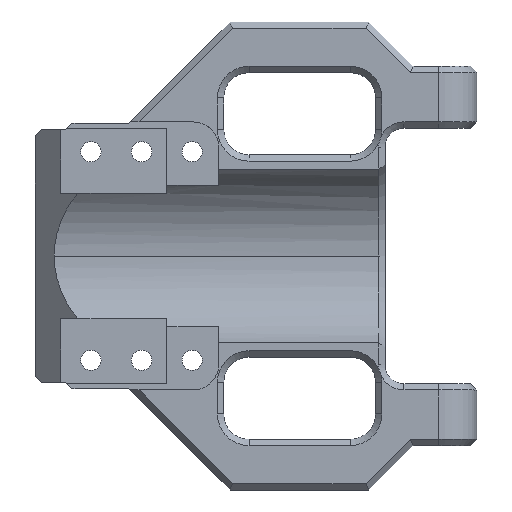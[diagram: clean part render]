
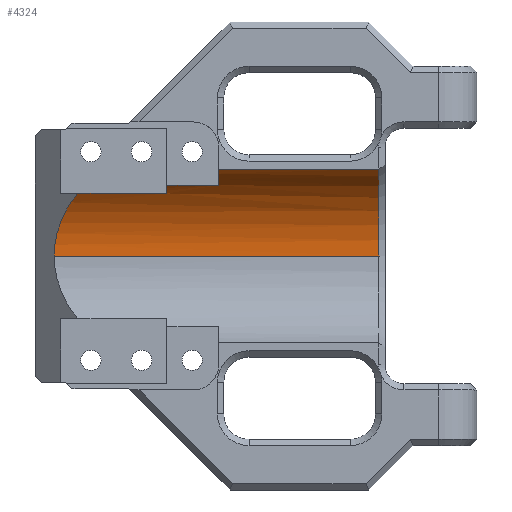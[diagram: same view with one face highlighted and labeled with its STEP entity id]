
A CAD part, top view. The second image highlights one B-rep face of the part: STEP entity #4324.
In plain terms, the highlighted cylindrical face has radius 15 mm (diameter 30 mm), a partial arc.
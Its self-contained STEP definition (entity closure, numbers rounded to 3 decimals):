
#15=ELLIPSE('',#4644,21.213,15.);
#68=CYLINDRICAL_SURFACE('',#4643,15.);
#422=FACE_OUTER_BOUND('',#674,.T.);
#674=EDGE_LOOP('',(#3492,#3493,#3494,#3495,#3496,#3497,#3498,#3499));
#824=CIRCLE('',#4476,15.);
#841=CIRCLE('',#4511,15.);
#853=CIRCLE('',#4550,15.);
#978=LINE('',#6147,#1441);
#1062=LINE('',#6365,#1525);
#1064=LINE('',#6372,#1527);
#1177=LINE('',#6723,#1640);
#1441=VECTOR('',#4914,10.);
#1525=VECTOR('',#5132,10.);
#1527=VECTOR('',#5138,10.);
#1640=VECTOR('',#5431,10.);
#1887=VERTEX_POINT('',#6086);
#1895=VERTEX_POINT('',#6108);
#1912=VERTEX_POINT('',#6145);
#1938=VERTEX_POINT('',#6231);
#1977=VERTEX_POINT('',#6354);
#1978=VERTEX_POINT('',#6356);
#1981=VERTEX_POINT('',#6369);
#2076=VERTEX_POINT('',#6722);
#2306=EDGE_CURVE('',#1895,#1887,#824,.T.);
#2326=EDGE_CURVE('',#1912,#1887,#978,.F.);
#2369=EDGE_CURVE('',#1912,#1938,#841,.F.);
#2426=EDGE_CURVE('',#1978,#1977,#853,.T.);
#2432=EDGE_CURVE('',#1938,#1978,#1062,.T.);
#2435=EDGE_CURVE('',#1977,#1981,#1064,.T.);
#2593=EDGE_CURVE('',#2076,#1895,#1177,.T.);
#2594=EDGE_CURVE('',#2076,#1981,#15,.T.);
#3492=ORIENTED_EDGE('',*,*,#2593,.T.);
#3493=ORIENTED_EDGE('',*,*,#2306,.T.);
#3494=ORIENTED_EDGE('',*,*,#2326,.F.);
#3495=ORIENTED_EDGE('',*,*,#2369,.T.);
#3496=ORIENTED_EDGE('',*,*,#2432,.T.);
#3497=ORIENTED_EDGE('',*,*,#2426,.T.);
#3498=ORIENTED_EDGE('',*,*,#2435,.T.);
#3499=ORIENTED_EDGE('',*,*,#2594,.F.);
#4324=ADVANCED_FACE('',(#422),#68,.F.);
#4476=AXIS2_PLACEMENT_3D('',#6109,#4884,#4885);
#4511=AXIS2_PLACEMENT_3D('',#6233,#5000,#5001);
#4550=AXIS2_PLACEMENT_3D('',#6357,#5123,#5124);
#4643=AXIS2_PLACEMENT_3D('',#6721,#5429,#5430);
#4644=AXIS2_PLACEMENT_3D('',#6724,#5432,#5433);
#4884=DIRECTION('center_axis',(1.,0.,0.));
#4885=DIRECTION('ref_axis',(0.,-1.,0.));
#4914=DIRECTION('',(-1.,0.,0.));
#5000=DIRECTION('center_axis',(1.,0.,0.));
#5001=DIRECTION('ref_axis',(0.,-1.,0.));
#5123=DIRECTION('center_axis',(-1.,0.,0.));
#5124=DIRECTION('ref_axis',(0.,-1.,0.));
#5132=DIRECTION('',(-1.,0.,0.));
#5138=DIRECTION('',(-1.,0.,0.));
#5429=DIRECTION('center_axis',(-1.,0.,0.));
#5430=DIRECTION('ref_axis',(0.,-1.,0.));
#5431=DIRECTION('',(1.,0.,0.));
#5432=DIRECTION('center_axis',(0.707,0.,
-0.707));
#5433=DIRECTION('ref_axis',(0.707,0.,0.707));
#6086=CARTESIAN_POINT('',(104.302,13.74,5.026));
#6108=CARTESIAN_POINT('',(104.302,0.,-3.974));
#6109=CARTESIAN_POINT('Origin',(104.302,-0.008,11.026));
#6145=CARTESIAN_POINT('',(79.002,13.74,5.026));
#6147=CARTESIAN_POINT('',(58.802,13.74,5.026));
#6231=CARTESIAN_POINT('',(79.002,11.173,1.026));
#6233=CARTESIAN_POINT('Origin',(79.002,-0.008,11.026));
#6354=CARTESIAN_POINT('',(70.802,9.893,-0.243));
#6356=CARTESIAN_POINT('',(70.802,11.173,1.026));
#6357=CARTESIAN_POINT('Origin',(70.802,-0.008,11.026));
#6365=CARTESIAN_POINT('',(58.802,11.173,1.026));
#6369=CARTESIAN_POINT('',(56.733,9.893,-0.243));
#6372=CARTESIAN_POINT('',(58.802,9.893,-0.243));
#6721=CARTESIAN_POINT('Origin',(58.802,-0.008,11.026));
#6722=CARTESIAN_POINT('',(53.002,0.,-3.974));
#6723=CARTESIAN_POINT('',(58.802,0.,-3.974));
#6724=CARTESIAN_POINT('Origin',(68.002,-0.008,11.026));
